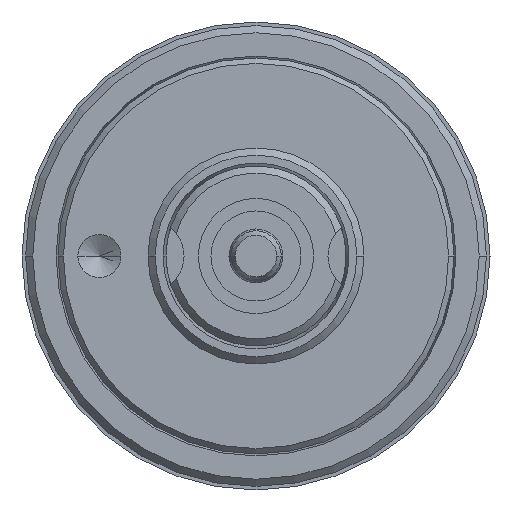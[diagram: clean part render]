
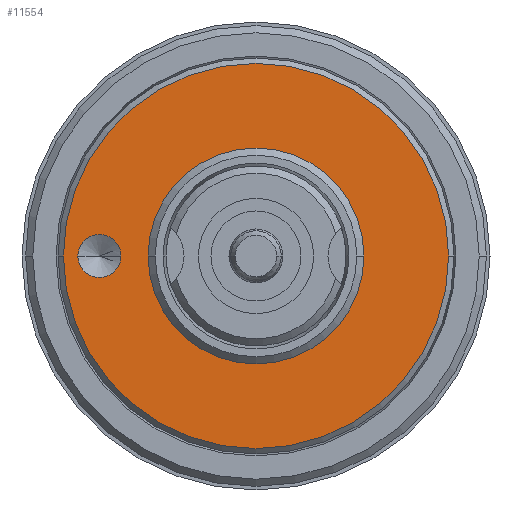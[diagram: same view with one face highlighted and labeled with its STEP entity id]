
A CAD part, left-side view. The second image highlights one B-rep face of the part: STEP entity #11554.
In plain terms, the highlighted planar face has unit normal (-1, 0, 0).
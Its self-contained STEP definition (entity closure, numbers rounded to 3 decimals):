
#5466=CARTESIAN_POINT('',(0.,0.,0.));
#5467=DIRECTION('',(-1.,0.,0.));
#5468=DIRECTION('',(0.,1.,0.));
#5469=AXIS2_PLACEMENT_3D('',#5466,#5467,#5468);
#5474=CARTESIAN_POINT('',(0.,0.,0.));
#5475=DIRECTION('',(-1.,0.,0.));
#5476=DIRECTION('',(0.,-1.,0.));
#5477=AXIS2_PLACEMENT_3D('',#5474,#5475,#5476);
#5482=CARTESIAN_POINT('',(0.,4.35,0.));
#5483=DIRECTION('',(-1.,0.,0.));
#5484=DIRECTION('',(0.,1.,0.));
#5485=AXIS2_PLACEMENT_3D('',#5482,#5483,#5484);
#5490=CARTESIAN_POINT('',(0.,4.35,0.));
#5491=DIRECTION('',(-1.,0.,0.));
#5492=DIRECTION('',(0.,-1.,0.));
#5493=AXIS2_PLACEMENT_3D('',#5490,#5491,#5492);
#5513=CARTESIAN_POINT('',(0.,0.,0.));
#5514=DIRECTION('',(1.,0.,0.));
#5515=DIRECTION('',(0.,1.,0.));
#5516=AXIS2_PLACEMENT_3D('',#5513,#5514,#5515);
#5582=CARTESIAN_POINT('',(0.,0.,0.));
#5583=DIRECTION('',(-1.,0.,0.));
#5584=DIRECTION('',(0.,1.,0.));
#5585=AXIS2_PLACEMENT_3D('',#5582,#5583,#5584);
#6357=CARTESIAN_POINT('',(0.,3.,0.));
#6358=CARTESIAN_POINT('',(0.,-3.,0.));
#6359=VERTEX_POINT('',#6357);
#6360=VERTEX_POINT('',#6358);
#6367=CARTESIAN_POINT('',(0.,4.95,0.));
#6368=CARTESIAN_POINT('',(0.,3.75,0.));
#6369=VERTEX_POINT('',#6367);
#6370=VERTEX_POINT('',#6368);
#6387=CARTESIAN_POINT('',(0.,5.35,0.));
#6388=CARTESIAN_POINT('',(0.,-5.35,0.));
#6389=VERTEX_POINT('',#6387);
#6390=VERTEX_POINT('',#6388);
#11532=CARTESIAN_POINT('',(0.,0.,0.));
#11533=DIRECTION('',(1.,0.,0.));
#11534=DIRECTION('',(0.,-1.,0.));
#11535=AXIS2_PLACEMENT_3D('',#11532,#11533,#11534);
#11536=PLANE('',#11535);
#11538=ORIENTED_EDGE('',*,*,#11537,.F.);
#11539=ORIENTED_EDGE('',*,*,#11522,.F.);
#11540=EDGE_LOOP('',(#11538,#11539));
#11541=FACE_OUTER_BOUND('',#11540,.F.);
#11543=ORIENTED_EDGE('',*,*,#11542,.F.);
#11545=ORIENTED_EDGE('',*,*,#11544,.T.);
#11546=EDGE_LOOP('',(#11543,#11545));
#11547=FACE_BOUND('',#11546,.F.);
#11549=ORIENTED_EDGE('',*,*,#11548,.T.);
#11551=ORIENTED_EDGE('',*,*,#11550,.T.);
#11552=EDGE_LOOP('',(#11549,#11551));
#11553=FACE_BOUND('',#11552,.F.);
#11554=ADVANCED_FACE('',(#11541,#11547,#11553),#11536,.F.);
#5470=CIRCLE('',#5469,5.35);
#5478=CIRCLE('',#5477,5.35);
#5486=CIRCLE('',#5485,0.6);
#5494=CIRCLE('',#5493,0.6);
#5517=CIRCLE('',#5516,3.);
#5586=CIRCLE('',#5585,3.);
#11522=EDGE_CURVE('',#6390,#6389,#5478,.T.);
#11537=EDGE_CURVE('',#6389,#6390,#5470,.T.);
#11542=EDGE_CURVE('',#6359,#6360,#5517,.T.);
#11544=EDGE_CURVE('',#6359,#6360,#5586,.T.);
#11548=EDGE_CURVE('',#6369,#6370,#5486,.T.);
#11550=EDGE_CURVE('',#6370,#6369,#5494,.T.);
